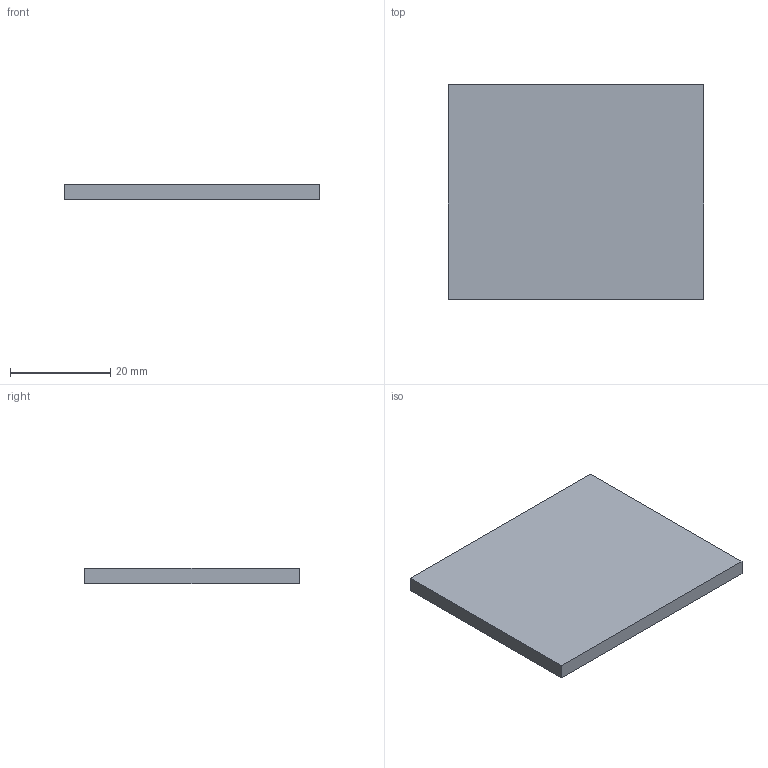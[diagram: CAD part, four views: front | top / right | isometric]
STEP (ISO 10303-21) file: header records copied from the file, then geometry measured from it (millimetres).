
FILE_DESCRIPTION(('CATIA V5 STEP Exchange'),'2;1');
FILE_NAME('D:\姚明阳\1、工装图纸\AGZ100\AGZ100.02_V2.stp','2025-05-29T08:47:11+00:00',('none'),('none'),'CATIA Version 5 Release 21 GA (IN-10)','CATIA V5 STEP AP214','none');
FILE_SCHEMA(('AUTOMOTIVE_DESIGN { 1 0 10303 214 1 1 1 1 }'));
Length unit declared in the file: millimetre
Products named in the file (1): Part1
Bounding box: 51 x 42.8 x 3 mm (x, y, z)
Volume: 6548.4 mm3; surface area: 4928.4 mm2
Topology: 1 solids, 1 shells, 6 faces, 12 edges, 8 vertices
Faces by surface type: plane 6
Entity records: 178 total; most frequent: CARTESIAN_POINT 27, DIRECTION 24, ORIENTED_EDGE 24, VECTOR 12, EDGE_CURVE 12, LINE 12, VERTEX_POINT 8, AXIS2_PLACEMENT_3D 7
